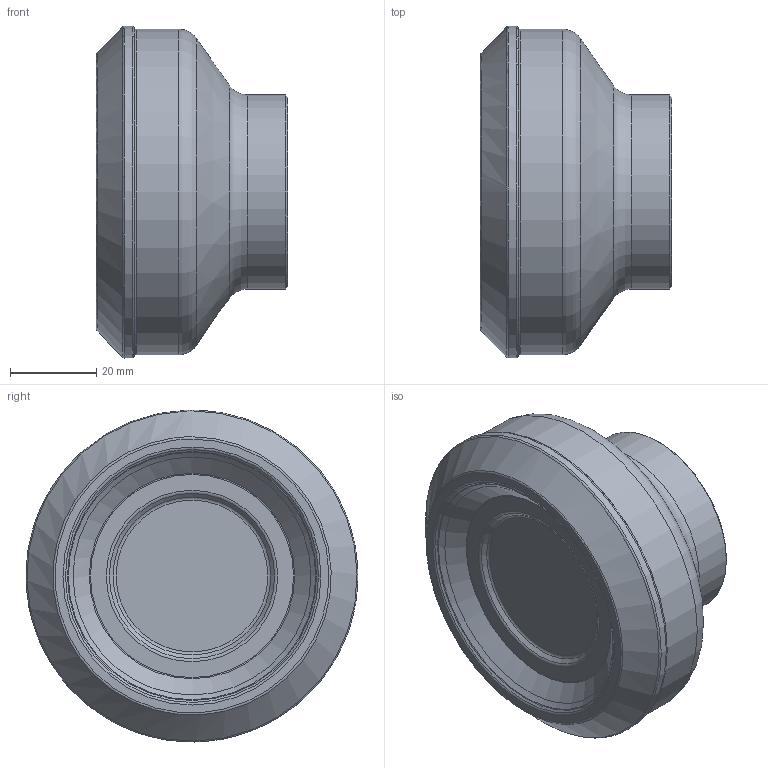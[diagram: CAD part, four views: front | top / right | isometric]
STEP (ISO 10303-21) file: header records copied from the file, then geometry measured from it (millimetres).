
FILE_DESCRIPTION(/* description */ (''),/* implementation_level */ '2;1');
FILE_NAME(/* name */ 'FMA01-2.50''''-A0.75''''-SE12-05.stp',/* time_stamp */ '2022-03-29T11:36:23+08:00',/* author */ (''),/* organization */ (''),/* preprocessor_version */ 'ST-DEVELOPER v16.7',/* originating_system */ 'SIEMENS PLM Software NX 12.0',/* authorisation */ '');
FILE_SCHEMA (('AUTOMOTIVE_DESIGN { 1 0 10303 214 3 1 1 1 }'));
Length unit declared in the file: millimetre
Products named in the file (1): heyu23945552hh92
Bounding box: 44.45 x 76.96 x 76.97 mm (x, y, z)
Volume: 131601.2 mm3; surface area: 15932.9 mm2
Topology: 1 solids, 1 shells, 25 faces, 58 edges, 37 vertices
Faces by surface type: revolution 9, torus 6, cone 4, plane 4, cylinder 2
Full cylindrical faces by diameter (mm): 45 x1, 75.5 x1
Entity records: 557 total; most frequent: DIRECTION 104, CARTESIAN_POINT 83, EDGE_LOOP 48, ORIENTED_EDGE 48, FACE_BOUND 46, AXIS2_PLACEMENT_3D 45, CIRCLE 28, ADVANCED_FACE 25
